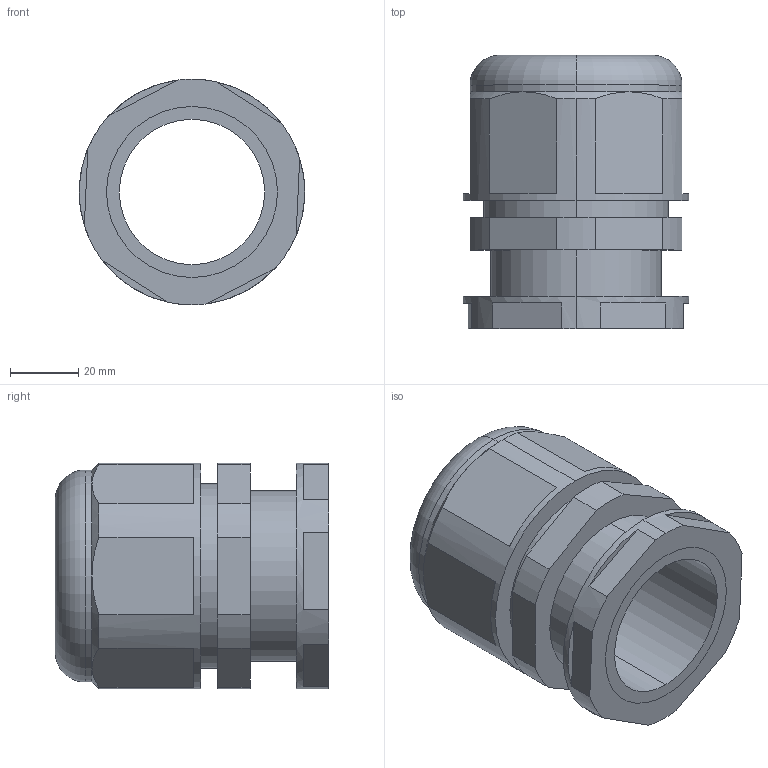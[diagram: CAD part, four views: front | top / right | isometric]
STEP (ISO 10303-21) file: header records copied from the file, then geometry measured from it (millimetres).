
FILE_DESCRIPTION (( 'STEP AP214' ), '1' );
FILE_NAME ('Ñàëüíèê MG50-(D ïðîâîäíèêà 33-41 ìì)-IP68.STEP', '2023-02-20T06:35:57', ( '' ), ( '' ), 'SwSTEP 2.0', 'SolidWorks 2018', '' );
FILE_SCHEMA (( 'AUTOMOTIVE_DESIGN' ));
Length unit declared in the file: millimetre
Products named in the file (3): Ñàëüíèê MG50-(D ïðîâîäíèêà 33-41 ìì)-IP68; Ñàëüíèê MG50-(D ïðîâîäíèêà 33-41 ìì)-IP68 äåòàëü; Ñàëüíèê MG50-(D ïðîâîäíèêà 33-41 ìì)-IP68 ãàéêà
Assembly tree (2 placements, depth 2):
  Ñàëüíèê MG50-(D ïðîâîäíèêà 33-41 ìì)-IP68
    Ñàëüíèê MG50-(D ïðîâîäíèêà 33-41 ìì)-IP68 äåòàëü
    Ñàëüíèê MG50-(D ïðîâîäíèêà 33-41 ìì)-IP68 ãàéêà
Bounding box: 66 x 80 x 66 mm (x, y, z)
Volume: 118848.2 mm3; surface area: 37034.5 mm2
Topology: 2 solids, 2 shells, 67 faces, 170 edges, 110 vertices
Faces by surface type: plane 37, cylinder 21, cone 7, torus 2
Entity records: 2214 total; most frequent: CARTESIAN_POINT 432, DIRECTION 378, ORIENTED_EDGE 340, EDGE_CURVE 170, AXIS2_PLACEMENT_3D 148, VERTEX_POINT 110, LINE 82, VECTOR 82
